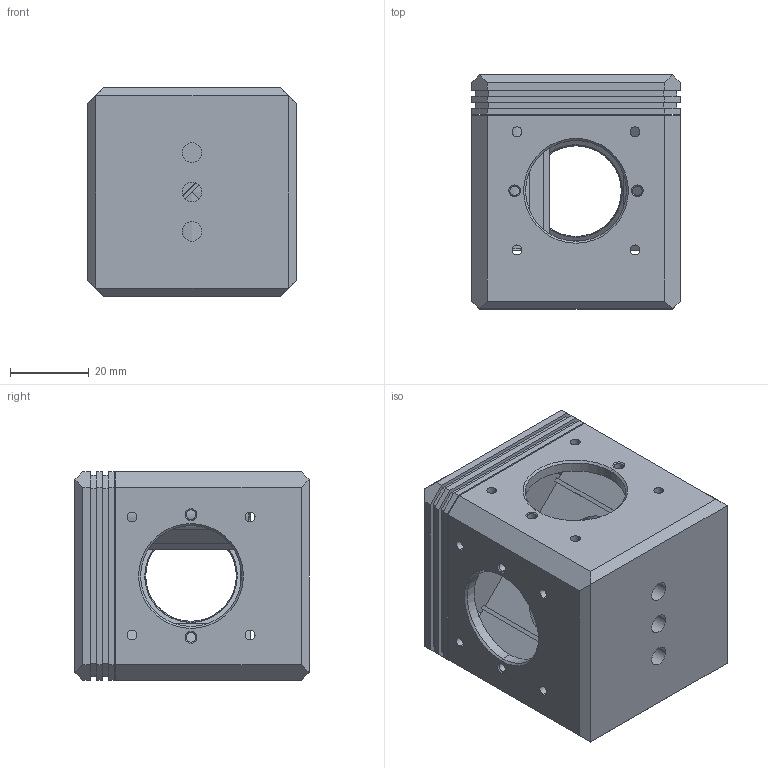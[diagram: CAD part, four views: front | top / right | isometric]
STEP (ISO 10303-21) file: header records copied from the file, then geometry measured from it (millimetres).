
FILE_DESCRIPTION (( 'STEP AP203' ), '1' );
FILE_NAME ('CSC1Q-MPR.STEP', '2024-03-28T03:20:21', ( '' ), ( '' ), 'SwSTEP 2.0', 'SolidWorks 2021', '' );
FILE_SCHEMA (( 'CONFIG_CONTROL_DESIGN' ));
Length unit declared in the file: millimetre
Products named in the file (1): CSC1Q-MPR
Bounding box: 53 x 59.5 x 53 mm (x, y, z)
Surface area: 30652.3 mm2 (no closed solid volume)
Topology: 0 solids, 22 shells, 290 faces, 1339 edges, 1063 vertices
Faces by surface type: plane 158, cylinder 82, cone 44, bspline 6
Entity records: 15595 total; most frequent: CARTESIAN_POINT 4999, DIRECTION 2032, ORIENTED_EDGE 1919, EDGE_CURVE 1339, VERTEX_POINT 1063, VECTOR 920, LINE 920, AXIS2_PLACEMENT_3D 556
